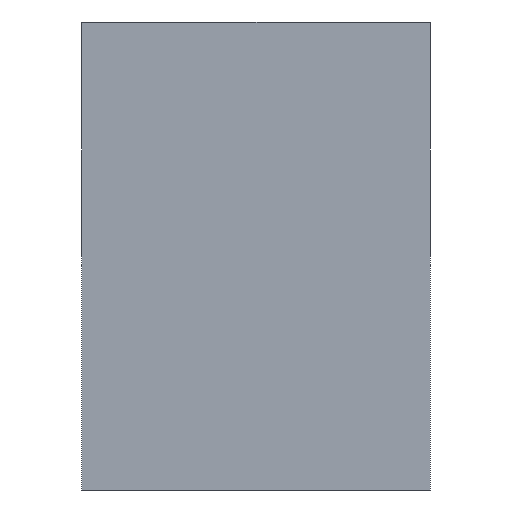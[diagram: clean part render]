
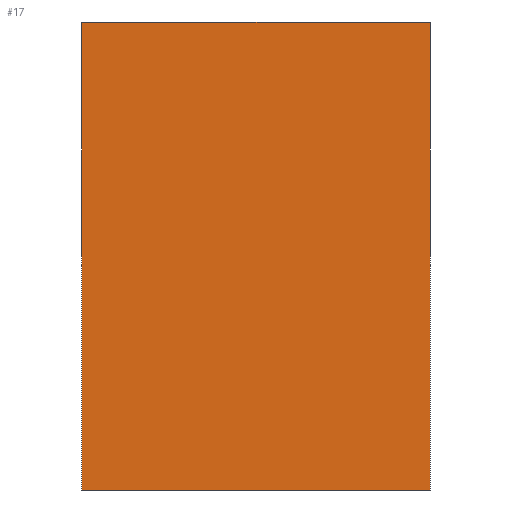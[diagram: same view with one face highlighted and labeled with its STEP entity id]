
A CAD part, left-side view. The second image highlights one B-rep face of the part: STEP entity #17.
In plain terms, the highlighted planar face has unit normal (-1, 0, 0).
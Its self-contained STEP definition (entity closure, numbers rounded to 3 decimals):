
#17 = ADVANCED_FACE('',(#18),#32,.F.);
#18 = FACE_BOUND('',#19,.F.);
#19 = EDGE_LOOP('',(#20,#55,#83,#111));
#20 = ORIENTED_EDGE('',*,*,#21,.F.);
#21 = EDGE_CURVE('',#22,#24,#26,.T.);
#22 = VERTEX_POINT('',#23);
#23 = CARTESIAN_POINT('',(-75.,-199.,109.));
#24 = VERTEX_POINT('',#25);
#25 = CARTESIAN_POINT('',(-75.,-199.,203.));
#26 = SURFACE_CURVE('',#27,(#31,#43),.PCURVE_S1.);
#27 = LINE('',#28,#29);
#28 = CARTESIAN_POINT('',(-75.,-199.,109.));
#29 = VECTOR('',#30,1.);
#30 = DIRECTION('',(0.,0.,1.));
#31 = PCURVE('',#32,#37);
#32 = PLANE('',#33);
#33 = AXIS2_PLACEMENT_3D('',#34,#35,#36);
#34 = CARTESIAN_POINT('',(-75.,-199.,109.));
#35 = DIRECTION('',(1.,0.,0.));
#36 = DIRECTION('',(0.,0.,1.));
#37 = DEFINITIONAL_REPRESENTATION('',(#38),#42);
#38 = LINE('',#39,#40);
#39 = CARTESIAN_POINT('',(0.,0.));
#40 = VECTOR('',#41,1.);
#41 = DIRECTION('',(1.,0.));
#42 = ( GEOMETRIC_REPRESENTATION_CONTEXT(2) 
PARAMETRIC_REPRESENTATION_CONTEXT() REPRESENTATION_CONTEXT('2D SPACE',''
  ) );
#43 = PCURVE('',#44,#49);
#44 = PLANE('',#45);
#45 = AXIS2_PLACEMENT_3D('',#46,#47,#48);
#46 = CARTESIAN_POINT('',(-75.,-199.,109.));
#47 = DIRECTION('',(0.,1.,0.));
#48 = DIRECTION('',(0.,0.,1.));
#49 = DEFINITIONAL_REPRESENTATION('',(#50),#54);
#50 = LINE('',#51,#52);
#51 = CARTESIAN_POINT('',(0.,0.));
#52 = VECTOR('',#53,1.);
#53 = DIRECTION('',(1.,0.));
#54 = ( GEOMETRIC_REPRESENTATION_CONTEXT(2) 
PARAMETRIC_REPRESENTATION_CONTEXT() REPRESENTATION_CONTEXT('2D SPACE',''
  ) );
#55 = ORIENTED_EDGE('',*,*,#56,.T.);
#56 = EDGE_CURVE('',#22,#57,#59,.T.);
#57 = VERTEX_POINT('',#58);
#58 = CARTESIAN_POINT('',(-75.,-129.,109.));
#59 = SURFACE_CURVE('',#60,(#64,#71),.PCURVE_S1.);
#60 = LINE('',#61,#62);
#61 = CARTESIAN_POINT('',(-75.,-199.,109.));
#62 = VECTOR('',#63,1.);
#63 = DIRECTION('',(0.,1.,0.));
#64 = PCURVE('',#32,#65);
#65 = DEFINITIONAL_REPRESENTATION('',(#66),#70);
#66 = LINE('',#67,#68);
#67 = CARTESIAN_POINT('',(0.,0.));
#68 = VECTOR('',#69,1.);
#69 = DIRECTION('',(0.,-1.));
#70 = ( GEOMETRIC_REPRESENTATION_CONTEXT(2) 
PARAMETRIC_REPRESENTATION_CONTEXT() REPRESENTATION_CONTEXT('2D SPACE',''
  ) );
#71 = PCURVE('',#72,#77);
#72 = PLANE('',#73);
#73 = AXIS2_PLACEMENT_3D('',#74,#75,#76);
#74 = CARTESIAN_POINT('',(-75.,-199.,109.));
#75 = DIRECTION('',(0.,0.,1.));
#76 = DIRECTION('',(1.,0.,0.));
#77 = DEFINITIONAL_REPRESENTATION('',(#78),#82);
#78 = LINE('',#79,#80);
#79 = CARTESIAN_POINT('',(0.,0.));
#80 = VECTOR('',#81,1.);
#81 = DIRECTION('',(0.,1.));
#82 = ( GEOMETRIC_REPRESENTATION_CONTEXT(2) 
PARAMETRIC_REPRESENTATION_CONTEXT() REPRESENTATION_CONTEXT('2D SPACE',''
  ) );
#83 = ORIENTED_EDGE('',*,*,#84,.T.);
#84 = EDGE_CURVE('',#57,#85,#87,.T.);
#85 = VERTEX_POINT('',#86);
#86 = CARTESIAN_POINT('',(-75.,-129.,203.));
#87 = SURFACE_CURVE('',#88,(#92,#99),.PCURVE_S1.);
#88 = LINE('',#89,#90);
#89 = CARTESIAN_POINT('',(-75.,-129.,109.));
#90 = VECTOR('',#91,1.);
#91 = DIRECTION('',(0.,0.,1.));
#92 = PCURVE('',#32,#93);
#93 = DEFINITIONAL_REPRESENTATION('',(#94),#98);
#94 = LINE('',#95,#96);
#95 = CARTESIAN_POINT('',(0.,-70.));
#96 = VECTOR('',#97,1.);
#97 = DIRECTION('',(1.,0.));
#98 = ( GEOMETRIC_REPRESENTATION_CONTEXT(2) 
PARAMETRIC_REPRESENTATION_CONTEXT() REPRESENTATION_CONTEXT('2D SPACE',''
  ) );
#99 = PCURVE('',#100,#105);
#100 = PLANE('',#101);
#101 = AXIS2_PLACEMENT_3D('',#102,#103,#104);
#102 = CARTESIAN_POINT('',(-75.,-129.,109.));
#103 = DIRECTION('',(0.,1.,0.));
#104 = DIRECTION('',(0.,0.,1.));
#105 = DEFINITIONAL_REPRESENTATION('',(#106),#110);
#106 = LINE('',#107,#108);
#107 = CARTESIAN_POINT('',(0.,0.));
#108 = VECTOR('',#109,1.);
#109 = DIRECTION('',(1.,0.));
#110 = ( GEOMETRIC_REPRESENTATION_CONTEXT(2) 
PARAMETRIC_REPRESENTATION_CONTEXT() REPRESENTATION_CONTEXT('2D SPACE',''
  ) );
#111 = ORIENTED_EDGE('',*,*,#112,.F.);
#112 = EDGE_CURVE('',#24,#85,#113,.T.);
#113 = SURFACE_CURVE('',#114,(#118,#125),.PCURVE_S1.);
#114 = LINE('',#115,#116);
#115 = CARTESIAN_POINT('',(-75.,-199.,203.));
#116 = VECTOR('',#117,1.);
#117 = DIRECTION('',(0.,1.,0.));
#118 = PCURVE('',#32,#119);
#119 = DEFINITIONAL_REPRESENTATION('',(#120),#124);
#120 = LINE('',#121,#122);
#121 = CARTESIAN_POINT('',(94.,0.));
#122 = VECTOR('',#123,1.);
#123 = DIRECTION('',(0.,-1.));
#124 = ( GEOMETRIC_REPRESENTATION_CONTEXT(2) 
PARAMETRIC_REPRESENTATION_CONTEXT() REPRESENTATION_CONTEXT('2D SPACE',''
  ) );
#125 = PCURVE('',#126,#131);
#126 = PLANE('',#127);
#127 = AXIS2_PLACEMENT_3D('',#128,#129,#130);
#128 = CARTESIAN_POINT('',(-75.,-199.,203.));
#129 = DIRECTION('',(0.,0.,1.));
#130 = DIRECTION('',(1.,0.,0.));
#131 = DEFINITIONAL_REPRESENTATION('',(#132),#136);
#132 = LINE('',#133,#134);
#133 = CARTESIAN_POINT('',(0.,0.));
#134 = VECTOR('',#135,1.);
#135 = DIRECTION('',(0.,1.));
#136 = ( GEOMETRIC_REPRESENTATION_CONTEXT(2) 
PARAMETRIC_REPRESENTATION_CONTEXT() REPRESENTATION_CONTEXT('2D SPACE',''
  ) );
